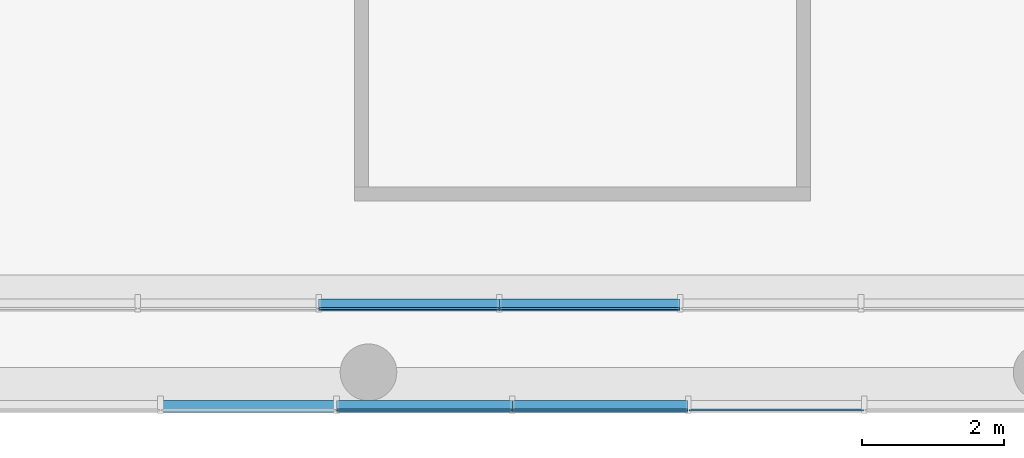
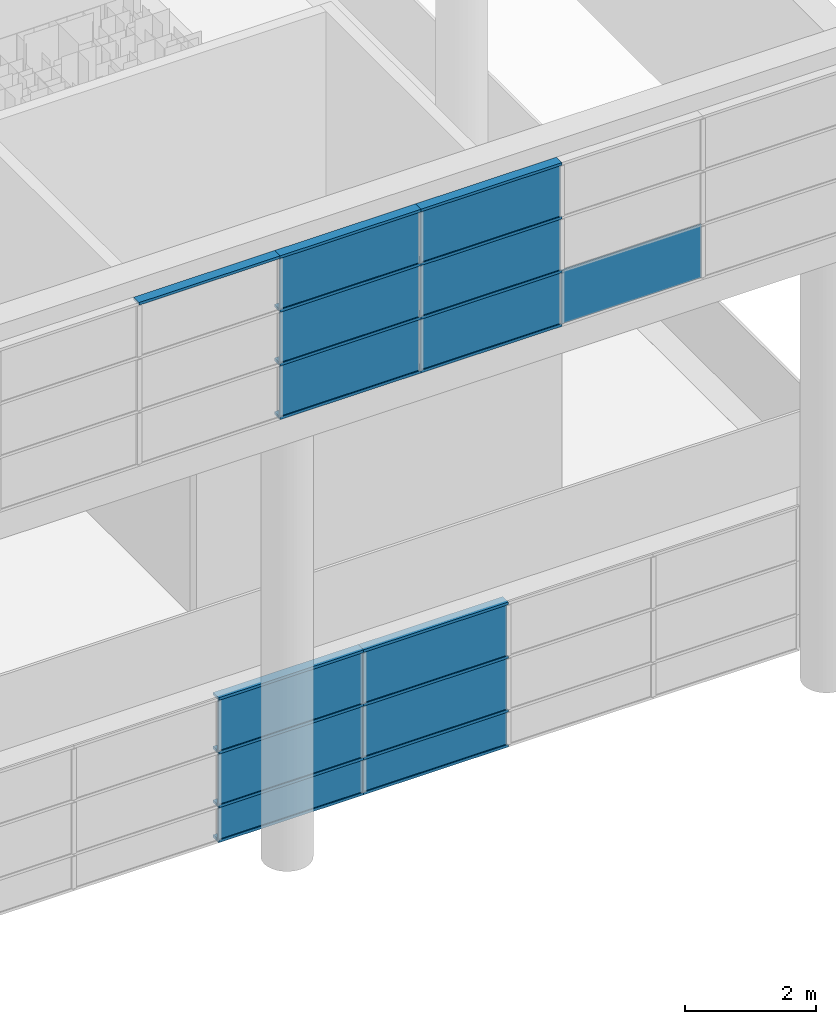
# One storey, part 53 of 105: 30 building element parts, 2 elements without a shape of their own.
"""IFC4 building model written with IfcOpenShell, lengths in millimetres."""

from ifc_helpers import new_model, entity, si_unit, converted_unit, derived_unit, direction, frame, origin_with_axes, place, context, subcontext, project, spatial, triangles, material, element, aggregate, save


model = new_model("IFC4")

# Units and contexts
model_context = context("Model", 3, precision=1e-05, world=origin_with_axes(), true_north=direction((0.0, 1.0)))
body_context = subcontext(model_context, "Body", "Model", "MODEL_VIEW")
ifc_project = project(units=[si_unit("LENGTHUNIT", "METRE", prefix="MILLI"), si_unit("AREAUNIT", "SQUARE_METRE"), si_unit("VOLUMEUNIT", "CUBIC_METRE"), converted_unit("PLANEANGLEUNIT", "DEGREE", entity("IfcLengthMeasure", 0.017453), si_unit("PLANEANGLEUNIT", "RADIAN"), dimensions=[0, 0, 0, 0, 0, 0, 0]), si_unit("SOLIDANGLEUNIT", "STERADIAN"), si_unit("MASSUNIT", "GRAM"), si_unit("TIMEUNIT", "SECOND"), si_unit("THERMODYNAMICTEMPERATUREUNIT", "DEGREE_CELSIUS"), si_unit("LUMINOUSINTENSITYUNIT", "LUMEN"), si_unit("POWERUNIT", "WATT"), derived_unit("THERMALTRANSMITTANCEUNIT", [(si_unit("POWERUNIT", "WATT"), 1), (si_unit("THERMODYNAMICTEMPERATUREUNIT", "KELVIN"), -1), (si_unit("AREAUNIT", "SQUARE_METRE"), -1)])], contexts=[model_context])

# Site, building, storey
site_placement = place(None, origin_with_axes())
site = spatial("IfcSite", under=ifc_project, at=site_placement, Name="Default Site", CompositionType="ELEMENT")
building_placement = place(site_placement, origin_with_axes())
building = spatial("IfcBuilding", under=site, at=building_placement, Name="Default Building", CompositionType="ELEMENT")
storey_placement = place(building_placement, origin_with_axes())
storey = spatial("IfcBuildingStorey", under=building, at=storey_placement, Name="OG - Story", CompositionType="ELEMENT", Elevation=0.0)

# Curtain wall, building element parts
curtain_wall_1_placement = place(storey_placement, origin_with_axes())
curtain_wall_1 = element("IfcCurtainWall", 1, at=curtain_wall_1_placement, inside=storey, Name="Fassade-001", PredefinedType="NOTDEFINED")
ifc_material_1 = material(Name="Normalglas")
building_element_part_1_placement = place(curtain_wall_1_placement, frame((52496.845873, -51289.262838, 0.0), z_axis=(0.0, 0.0, 1.0), x_axis=(1.0, 0.0, 0.0)))
building_element_part_1 = element("IfcBuildingElementPart", 2, at=building_element_part_1_placement, material=ifc_material_1, Name="Normalglas", PredefinedType="NOTDEFINED", context=body_context, shape_type="Tessellation", body=[
    triangles([(19121.818, 15.0, 645.0), (16590.909, 15.0, 645.0), (16590.909, -14.999, 645.0), (19121.818, -14.999, 645.0), (19121.818, 15.0, 5.0), (16590.909, 15.0, 5.0), (16590.909, -14.999, 5.0), (19121.818, -14.999, 5.0)], [[1, 2, 3], [1, 3, 4], [1, 5, 6], [1, 6, 2], [2, 6, 7], [2, 7, 3], [4, 3, 7], [4, 7, 8], [5, 1, 4], [5, 4, 8], [6, 5, 8], [6, 8, 7]], closed=False),
])
building_element_part_2_placement = place(curtain_wall_1_placement, frame((52496.845873, -51289.262838, 0.0), z_axis=(0.0, 0.0, 1.0), x_axis=(1.0, 0.0, 0.0)))
building_element_part_2 = element("IfcBuildingElementPart", 3, at=building_element_part_2_placement, material=ifc_material_1, Name="Normalglas", PredefinedType="NOTDEFINED", context=body_context, shape_type="Tessellation", body=[
    triangles([(21672.727, 15.0, 645.0), (19141.818, 15.0, 645.0), (19141.818, -14.999, 645.0), (21672.727, -14.999, 645.0), (21672.727, 15.0, 5.0), (19141.818, 15.0, 5.0), (19141.818, -14.999, 5.0), (21672.727, -14.999, 5.0)], [[1, 2, 3], [1, 3, 4], [1, 5, 6], [1, 6, 2], [2, 6, 7], [2, 7, 3], [4, 3, 7], [4, 7, 8], [5, 1, 4], [5, 4, 8], [6, 5, 8], [6, 8, 7]], closed=False),
])
building_element_part_3_placement = place(curtain_wall_1_placement, frame((52496.845873, -51289.262838, 0.0), z_axis=(0.0, 0.0, 1.0), x_axis=(1.0, 0.0, 0.0)))
building_element_part_3 = element("IfcBuildingElementPart", 4, at=building_element_part_3_placement, material=ifc_material_1, Name="Normalglas", PredefinedType="NOTDEFINED", context=body_context, shape_type="Tessellation", body=[
    triangles([(19121.818, 15.0, 1645.0), (16590.909, 15.0, 1645.0), (16590.909, -14.999, 1645.0), (19121.818, -14.999, 1645.0), (19121.818, 15.0, 655.0), (16590.909, 15.0, 655.0), (16590.909, -14.999, 655.0), (19121.818, -14.999, 655.0)], [[1, 2, 3], [1, 3, 4], [1, 5, 6], [1, 6, 2], [2, 6, 7], [2, 7, 3], [4, 3, 7], [4, 7, 8], [5, 1, 4], [5, 4, 8], [6, 5, 8], [6, 8, 7]], closed=False),
])
building_element_part_4_placement = place(curtain_wall_1_placement, frame((52496.845873, -51289.262838, 0.0), z_axis=(0.0, 0.0, 1.0), x_axis=(1.0, 0.0, 0.0)))
building_element_part_4 = element("IfcBuildingElementPart", 5, at=building_element_part_4_placement, material=ifc_material_1, Name="Normalglas", PredefinedType="NOTDEFINED", context=body_context, shape_type="Tessellation", body=[
    triangles([(21672.727, 15.0, 1645.0), (19141.818, 15.0, 1645.0), (19141.818, -14.999, 1645.0), (21672.727, -14.999, 1645.0), (21672.727, 15.0, 655.0), (19141.818, 15.0, 655.0), (19141.818, -14.999, 655.0), (21672.727, -14.999, 655.0)], [[1, 2, 3], [1, 3, 4], [1, 5, 6], [1, 6, 2], [2, 6, 7], [2, 7, 3], [4, 3, 7], [4, 7, 8], [5, 1, 4], [5, 4, 8], [6, 5, 8], [6, 8, 7]], closed=False),
])
building_element_part_5_placement = place(curtain_wall_1_placement, frame((52496.845873, -51289.262838, 0.0), z_axis=(0.0, 0.0, 1.0), x_axis=(1.0, 0.0, 0.0)))
building_element_part_5 = element("IfcBuildingElementPart", 6, at=building_element_part_5_placement, material=ifc_material_1, Name="Normalglas", PredefinedType="NOTDEFINED", context=body_context, shape_type="Tessellation", body=[
    triangles([(19121.818, 15.0, 2645.0), (16590.909, 15.0, 2645.0), (16590.909, -14.999, 2645.0), (19121.818, -14.999, 2645.0), (19121.818, 15.0, 1655.0), (16590.909, 15.0, 1655.0), (16590.909, -14.999, 1655.0), (19121.818, -14.999, 1655.0)], [[1, 2, 3], [1, 3, 4], [1, 5, 6], [1, 6, 2], [2, 6, 7], [2, 7, 3], [4, 3, 7], [4, 7, 8], [5, 1, 4], [5, 4, 8], [6, 5, 8], [6, 8, 7]], closed=False),
])
building_element_part_6_placement = place(curtain_wall_1_placement, frame((52496.845873, -51289.262838, 0.0), z_axis=(0.0, 0.0, 1.0), x_axis=(1.0, 0.0, 0.0)))
building_element_part_6 = element("IfcBuildingElementPart", 7, at=building_element_part_6_placement, material=ifc_material_1, Name="Normalglas", PredefinedType="NOTDEFINED", context=body_context, shape_type="Tessellation", body=[
    triangles([(21672.727, 15.0, 2645.0), (19141.818, 15.0, 2645.0), (19141.818, -14.999, 2645.0), (21672.727, -14.999, 2645.0), (21672.727, 15.0, 1655.0), (19141.818, 15.0, 1655.0), (19141.818, -14.999, 1655.0), (21672.727, -14.999, 1655.0)], [[1, 2, 3], [1, 3, 4], [1, 5, 6], [1, 6, 2], [2, 6, 7], [2, 7, 3], [4, 3, 7], [4, 7, 8], [5, 1, 4], [5, 4, 8], [6, 5, 8], [6, 8, 7]], closed=False),
])
ifc_material_2 = material(Name="Blech")
building_element_part_7_placement = place(curtain_wall_1_placement, frame((52496.845873, -51289.262838, 0.0), z_axis=(0.0, 0.0, 1.0), x_axis=(1.0, 0.0, 0.0)))
building_element_part_7 = element("IfcBuildingElementPart", 8, at=building_element_part_7_placement, material=ifc_material_2, Name="Blech", PredefinedType="NOTDEFINED", context=body_context, shape_type="Tessellation", body=[
    triangles([(19131.818, 15.0, 25.0), (19131.818, 133.0, 25.0), (19131.818, 15.0, 5.0), (19131.818, 133.0, -24.999), (19131.818, -14.999, 5.0), (19131.818, -34.999, -24.999), (19131.818, -14.999, 25.0), (19131.818, -34.999, 25.0), (16580.909, 15.0, 5.0), (16580.909, -14.999, 5.0), (16580.909, -14.999, 25.0), (16580.909, -34.999, 25.0), (16580.909, -34.999, -24.999), (16580.909, 133.0, -24.999), (16580.909, 133.0, 25.0), (16580.909, 15.0, 25.0)], [[1, 2, 3], [3, 2, 4], [3, 4, 5], [5, 4, 6], [5, 6, 7], [7, 6, 8], [5, 3, 9], [5, 9, 10], [11, 7, 5], [11, 5, 10], [7, 11, 12], [7, 12, 8], [13, 6, 8], [13, 8, 12], [14, 4, 6], [14, 6, 13], [15, 2, 4], [15, 4, 14], [16, 1, 2], [16, 2, 15], [3, 1, 16], [3, 16, 9], [16, 15, 9], [9, 15, 14], [9, 14, 10], [10, 14, 13], [10, 13, 11], [11, 13, 12]], closed=False),
])
building_element_part_8_placement = place(curtain_wall_1_placement, frame((52496.845873, -51289.262838, 0.0), z_axis=(0.0, 0.0, 1.0), x_axis=(1.0, 0.0, 0.0)))
building_element_part_8 = element("IfcBuildingElementPart", 9, at=building_element_part_8_placement, material=ifc_material_2, Name="Blech", PredefinedType="NOTDEFINED", context=body_context, shape_type="Tessellation", body=[
    triangles([(21682.727, 15.0, 25.0), (21682.727, 133.0, 25.0), (21682.727, 15.0, 5.0), (21682.727, 133.0, -24.999), (21682.727, -14.999, 5.0), (21682.727, -34.999, -24.999), (21682.727, -14.999, 25.0), (21682.727, -34.999, 25.0), (19131.818, 15.0, 5.0), (19131.818, -14.999, 5.0), (19131.818, -14.999, 25.0), (19131.818, -34.999, 25.0), (19131.818, -34.999, -24.999), (19131.818, 133.0, -24.999), (19131.818, 133.0, 25.0), (19131.818, 15.0, 25.0)], [[1, 2, 3], [3, 2, 4], [3, 4, 5], [5, 4, 6], [5, 6, 7], [7, 6, 8], [5, 3, 9], [5, 9, 10], [11, 7, 5], [11, 5, 10], [7, 11, 12], [7, 12, 8], [13, 6, 8], [13, 8, 12], [14, 4, 6], [14, 6, 13], [15, 2, 4], [15, 4, 14], [16, 1, 2], [16, 2, 15], [3, 1, 16], [3, 16, 9], [16, 15, 9], [9, 15, 14], [9, 14, 10], [10, 14, 13], [10, 13, 11], [11, 13, 12]], closed=False),
])
building_element_part_9_placement = place(curtain_wall_1_placement, frame((52496.845873, -51289.262838, 0.0), z_axis=(0.0, 0.0, 1.0), x_axis=(1.0, 0.0, 0.0)))
building_element_part_9 = element("IfcBuildingElementPart", 10, at=building_element_part_9_placement, material=ifc_material_2, Name="Blech", PredefinedType="NOTDEFINED", context=body_context, shape_type="Tessellation", body=[
    triangles([(19131.818, 133.0, 675.0), (19131.818, 15.0, 675.0), (19131.818, 133.0, 625.0), (19131.818, 15.0, 655.0), (19131.818, 15.0, 645.0), (19131.818, -14.999, 655.0), (19131.818, -14.999, 645.0), (19131.818, -14.999, 625.0), (19131.818, -14.999, 675.0), (19131.818, -34.999, 675.0), (19131.818, -34.999, 625.0), (19131.818, 15.0, 625.0), (16580.909, 15.0, 645.0), (16580.909, 15.0, 625.0), (16580.909, 133.0, 625.0), (16580.909, 133.0, 675.0), (16580.909, 15.0, 675.0), (16580.909, 15.0, 655.0), (16580.909, -14.999, 655.0), (16580.909, -14.999, 675.0), (16580.909, -34.999, 675.0), (16580.909, -34.999, 625.0), (16580.909, -14.999, 625.0), (16580.909, -14.999, 645.0)], [[1, 2, 3], [3, 2, 4], [3, 4, 5], [5, 4, 6], [5, 6, 7], [8, 9, 10], [8, 10, 11], [3, 5, 12], [12, 5, 13], [12, 13, 14], [12, 14, 15], [12, 15, 3], [1, 3, 15], [1, 15, 16], [2, 1, 16], [2, 16, 17], [2, 17, 18], [2, 18, 4], [4, 18, 19], [4, 19, 6], [9, 6, 19], [9, 19, 20], [20, 21, 10], [20, 10, 9], [11, 10, 21], [11, 21, 22], [23, 8, 11], [23, 11, 22], [7, 8, 23], [7, 23, 24], [5, 7, 24], [5, 24, 13], [15, 14, 16], [16, 14, 13], [16, 13, 18], [18, 13, 24], [18, 24, 19], [20, 23, 22], [20, 22, 21], [16, 18, 17]], closed=False),
])
building_element_part_10_placement = place(curtain_wall_1_placement, frame((52496.845873, -51289.262838, 0.0), z_axis=(0.0, 0.0, 1.0), x_axis=(1.0, 0.0, 0.0)))
building_element_part_10 = element("IfcBuildingElementPart", 11, at=building_element_part_10_placement, material=ifc_material_2, Name="Blech", PredefinedType="NOTDEFINED", context=body_context, shape_type="Tessellation", body=[
    triangles([(21682.727, 133.0, 675.0), (21682.727, 15.0, 675.0), (21682.727, 133.0, 625.0), (21682.727, 15.0, 655.0), (21682.727, 15.0, 645.0), (21682.727, -14.999, 655.0), (21682.727, -14.999, 645.0), (21682.727, -14.999, 625.0), (21682.727, -14.999, 675.0), (21682.727, -34.999, 675.0), (21682.727, -34.999, 625.0), (21682.727, 15.0, 625.0), (19131.818, 15.0, 645.0), (19131.818, 15.0, 625.0), (19131.818, 133.0, 625.0), (19131.818, 133.0, 675.0), (19131.818, 15.0, 675.0), (19131.818, 15.0, 655.0), (19131.818, -14.999, 655.0), (19131.818, -14.999, 675.0), (19131.818, -34.999, 675.0), (19131.818, -34.999, 625.0), (19131.818, -14.999, 625.0), (19131.818, -14.999, 645.0)], [[1, 2, 3], [3, 2, 4], [3, 4, 5], [5, 4, 6], [5, 6, 7], [8, 9, 10], [8, 10, 11], [3, 5, 12], [12, 5, 13], [12, 13, 14], [12, 14, 15], [12, 15, 3], [1, 3, 15], [1, 15, 16], [2, 1, 16], [2, 16, 17], [2, 17, 18], [2, 18, 4], [4, 18, 19], [4, 19, 6], [9, 6, 19], [9, 19, 20], [20, 21, 10], [20, 10, 9], [11, 10, 21], [11, 21, 22], [23, 8, 11], [23, 11, 22], [7, 8, 23], [7, 23, 24], [5, 7, 24], [5, 24, 13], [15, 14, 16], [16, 14, 13], [16, 13, 18], [18, 13, 24], [18, 24, 19], [20, 23, 22], [20, 22, 21], [16, 18, 17]], closed=False),
])
building_element_part_11_placement = place(curtain_wall_1_placement, frame((52496.845873, -51289.262838, 0.0), z_axis=(0.0, 0.0, 1.0), x_axis=(1.0, 0.0, 0.0)))
building_element_part_11 = element("IfcBuildingElementPart", 12, at=building_element_part_11_placement, material=ifc_material_2, Name="Blech", PredefinedType="NOTDEFINED", context=body_context, shape_type="Tessellation", body=[
    triangles([(19131.818, 133.0, 1675.0), (19131.818, 15.0, 1675.0), (19131.818, 133.0, 1625.0), (19131.818, 15.0, 1655.0), (19131.818, 15.0, 1645.0), (19131.818, -14.999, 1655.0), (19131.818, -14.999, 1645.0), (19131.818, -14.999, 1625.0), (19131.818, -14.999, 1675.0), (19131.818, -34.999, 1675.0), (19131.818, -34.999, 1625.0), (19131.818, 15.0, 1625.0), (16580.909, 15.0, 1645.0), (16580.909, 15.0, 1625.0), (16580.909, 133.0, 1625.0), (16580.909, 133.0, 1675.0), (16580.909, 15.0, 1675.0), (16580.909, 15.0, 1655.0), (16580.909, -14.999, 1655.0), (16580.909, -14.999, 1675.0), (16580.909, -34.999, 1675.0), (16580.909, -34.999, 1625.0), (16580.909, -14.999, 1625.0), (16580.909, -14.999, 1645.0)], [[1, 2, 3], [3, 2, 4], [3, 4, 5], [5, 4, 6], [5, 6, 7], [8, 9, 10], [8, 10, 11], [3, 5, 12], [12, 5, 13], [12, 13, 14], [12, 14, 15], [12, 15, 3], [1, 3, 15], [1, 15, 16], [2, 1, 16], [2, 16, 17], [2, 17, 18], [2, 18, 4], [4, 18, 19], [4, 19, 6], [9, 6, 19], [9, 19, 20], [20, 21, 10], [20, 10, 9], [11, 10, 21], [11, 21, 22], [23, 8, 11], [23, 11, 22], [7, 8, 23], [7, 23, 24], [5, 7, 24], [5, 24, 13], [15, 14, 16], [16, 14, 13], [16, 13, 18], [18, 13, 24], [18, 24, 19], [20, 23, 22], [20, 22, 21], [16, 18, 17]], closed=False),
])
building_element_part_12_placement = place(curtain_wall_1_placement, frame((52496.845873, -51289.262838, 0.0), z_axis=(0.0, 0.0, 1.0), x_axis=(1.0, 0.0, 0.0)))
building_element_part_12 = element("IfcBuildingElementPart", 13, at=building_element_part_12_placement, material=ifc_material_2, Name="Blech", PredefinedType="NOTDEFINED", context=body_context, shape_type="Tessellation", body=[
    triangles([(19131.818, 15.0, 2625.0), (19131.818, 133.0, 2625.0), (19131.818, 15.0, 2645.0), (19131.818, 133.0, 2675.0), (19131.818, -14.999, 2645.0), (19131.818, -34.999, 2675.0), (19131.818, -14.999, 2625.0), (19131.818, -34.999, 2625.0), (16580.909, 15.0, 2645.0), (16580.909, 15.0, 2625.0), (16580.909, 133.0, 2625.0), (16580.909, 133.0, 2675.0), (16580.909, -34.999, 2675.0), (16580.909, -34.999, 2625.0), (16580.909, -14.999, 2625.0), (16580.909, -14.999, 2645.0)], [[1, 2, 3], [3, 2, 4], [3, 4, 5], [5, 4, 6], [5, 6, 7], [7, 6, 8], [3, 9, 10], [3, 10, 1], [10, 11, 2], [10, 2, 1], [11, 12, 4], [11, 4, 2], [12, 13, 6], [12, 6, 4], [13, 14, 8], [13, 8, 6], [7, 8, 14], [7, 14, 15], [15, 16, 5], [15, 5, 7], [5, 16, 9], [5, 9, 3], [10, 11, 9], [9, 11, 12], [9, 12, 16], [16, 12, 13], [16, 13, 15], [15, 13, 14]], closed=False),
])
building_element_part_13_placement = place(curtain_wall_1_placement, frame((52496.845873, -51289.262838, 0.0), z_axis=(0.0, 0.0, 1.0), x_axis=(1.0, 0.0, 0.0)))
building_element_part_13 = element("IfcBuildingElementPart", 14, at=building_element_part_13_placement, material=ifc_material_2, Name="Blech", PredefinedType="NOTDEFINED", context=body_context, shape_type="Tessellation", body=[
    triangles([(21682.727, 133.0, 1675.0), (21682.727, 15.0, 1675.0), (21682.727, 133.0, 1625.0), (21682.727, 15.0, 1655.0), (21682.727, 15.0, 1645.0), (21682.727, -14.999, 1655.0), (21682.727, -14.999, 1645.0), (21682.727, -14.999, 1625.0), (21682.727, -14.999, 1675.0), (21682.727, -34.999, 1675.0), (21682.727, -34.999, 1625.0), (21682.727, 15.0, 1625.0), (19131.818, 15.0, 1645.0), (19131.818, 15.0, 1625.0), (19131.818, 133.0, 1625.0), (19131.818, 133.0, 1675.0), (19131.818, 15.0, 1675.0), (19131.818, 15.0, 1655.0), (19131.818, -14.999, 1655.0), (19131.818, -14.999, 1675.0), (19131.818, -34.999, 1675.0), (19131.818, -34.999, 1625.0), (19131.818, -14.999, 1625.0), (19131.818, -14.999, 1645.0)], [[1, 2, 3], [3, 2, 4], [3, 4, 5], [5, 4, 6], [5, 6, 7], [8, 9, 10], [8, 10, 11], [3, 5, 12], [12, 5, 13], [12, 13, 14], [12, 14, 15], [12, 15, 3], [1, 3, 15], [1, 15, 16], [2, 1, 16], [2, 16, 17], [2, 17, 18], [2, 18, 4], [4, 18, 19], [4, 19, 6], [9, 6, 19], [9, 19, 20], [20, 21, 10], [20, 10, 9], [11, 10, 21], [11, 21, 22], [23, 8, 11], [23, 11, 22], [7, 8, 23], [7, 23, 24], [5, 7, 24], [5, 24, 13], [15, 14, 16], [16, 14, 13], [16, 13, 18], [18, 13, 24], [18, 24, 19], [20, 23, 22], [20, 22, 21], [16, 18, 17]], closed=False),
])
building_element_part_14_placement = place(curtain_wall_1_placement, frame((52496.845873, -51289.262838, 0.0), z_axis=(0.0, 0.0, 1.0), x_axis=(1.0, 0.0, 0.0)))
building_element_part_14 = element("IfcBuildingElementPart", 15, at=building_element_part_14_placement, material=ifc_material_2, Name="Blech", PredefinedType="NOTDEFINED", context=body_context, shape_type="Tessellation", body=[
    triangles([(21682.727, 15.0, 2625.0), (21682.727, 133.0, 2625.0), (21682.727, 15.0, 2645.0), (21682.727, 133.0, 2675.0), (21682.727, -14.999, 2645.0), (21682.727, -34.999, 2675.0), (21682.727, -14.999, 2625.0), (21682.727, -34.999, 2625.0), (19131.818, 15.0, 2645.0), (19131.818, 15.0, 2625.0), (19131.818, 133.0, 2625.0), (19131.818, 133.0, 2675.0), (19131.818, -34.999, 2675.0), (19131.818, -34.999, 2625.0), (19131.818, -14.999, 2625.0), (19131.818, -14.999, 2645.0)], [[1, 2, 3], [3, 2, 4], [3, 4, 5], [5, 4, 6], [5, 6, 7], [7, 6, 8], [3, 9, 10], [3, 10, 1], [10, 11, 2], [10, 2, 1], [11, 12, 4], [11, 4, 2], [12, 13, 6], [12, 6, 4], [13, 14, 8], [13, 8, 6], [7, 8, 14], [7, 14, 15], [15, 16, 5], [15, 5, 7], [5, 16, 9], [5, 9, 3], [10, 11, 9], [9, 11, 12], [9, 12, 16], [16, 12, 13], [16, 13, 15], [15, 13, 14]], closed=False),
])
aggregate(curtain_wall_1, [building_element_part_1, building_element_part_2, building_element_part_3, building_element_part_4, building_element_part_5, building_element_part_6, building_element_part_7, building_element_part_8, building_element_part_9, building_element_part_10, building_element_part_11, building_element_part_12, building_element_part_13, building_element_part_14])

curtain_wall_2_placement = place(storey_placement, origin_with_axes())
curtain_wall_2 = element("IfcCurtainWall", 16, at=curtain_wall_2_placement, inside=storey, Name="Fassade-002", PredefinedType="NOTDEFINED")
building_element_part_15_placement = place(curtain_wall_2_placement, frame((33339.077852, -52722.262838, 8660.317768), z_axis=(0.0, 0.0, 1.0), x_axis=(1.0, 0.0, 0.0)))
building_element_part_15 = element("IfcBuildingElementPart", 17, at=building_element_part_15_placement, material=ifc_material_1, Name="Normalglas", PredefinedType="NOTDEFINED", context=body_context, shape_type="Tessellation", body=[
    triangles([(38462.44, 15.0, 995.0), (36000.347, 15.0, 995.0), (36000.347, -14.999, 995.0), (38462.44, -14.999, 995.0), (38462.44, 15.0, 5.0), (36000.347, 15.0, 5.0), (36000.347, -14.999, 5.0), (38462.44, -14.999, 5.0)], [[1, 2, 3], [1, 3, 4], [1, 5, 6], [1, 6, 2], [2, 6, 7], [2, 7, 3], [4, 3, 7], [4, 7, 8], [5, 1, 4], [5, 4, 8], [6, 5, 8], [6, 8, 7]], closed=False),
])
building_element_part_16_placement = place(curtain_wall_2_placement, frame((33339.077852, -52722.262838, 8660.317768), z_axis=(0.0, 0.0, 1.0), x_axis=(1.0, 0.0, 0.0)))
building_element_part_16 = element("IfcBuildingElementPart", 18, at=building_element_part_16_placement, material=ifc_material_1, Name="Normalglas", PredefinedType="NOTDEFINED", context=body_context, shape_type="Tessellation", body=[
    triangles([(38462.44, 15.0, 1995.0), (36000.347, 15.0, 1995.0), (36000.347, -14.999, 1995.0), (38462.44, -14.999, 1995.0), (38462.44, 15.0, 1005.0), (36000.347, 15.0, 1005.0), (36000.347, -14.999, 1005.0), (38462.44, -14.999, 1005.0)], [[1, 2, 3], [1, 3, 4], [1, 5, 6], [1, 6, 2], [2, 6, 7], [2, 7, 3], [4, 3, 7], [4, 7, 8], [5, 1, 4], [5, 4, 8], [6, 5, 8], [6, 8, 7]], closed=False),
])
building_element_part_17_placement = place(curtain_wall_2_placement, frame((33339.077852, -52722.262838, 8660.317768), z_axis=(0.0, 0.0, 1.0), x_axis=(1.0, 0.0, 0.0)))
building_element_part_17 = element("IfcBuildingElementPart", 19, at=building_element_part_17_placement, material=ifc_material_1, Name="Normalglas", PredefinedType="NOTDEFINED", context=body_context, shape_type="Tessellation", body=[
    triangles([(38462.44, 15.0, 2995.0), (36000.347, 15.0, 2995.0), (36000.347, -14.999, 2995.0), (38462.44, -14.999, 2995.0), (38462.44, 15.0, 2005.0), (36000.347, 15.0, 2005.0), (36000.347, -14.999, 2005.0), (38462.44, -14.999, 2005.0)], [[1, 2, 3], [1, 3, 4], [1, 5, 6], [1, 6, 2], [2, 6, 7], [2, 7, 3], [4, 3, 7], [4, 7, 8], [5, 1, 4], [5, 4, 8], [6, 5, 8], [6, 8, 7]], closed=False),
])
building_element_part_18_placement = place(curtain_wall_2_placement, frame((33339.077852, -52722.262838, 8660.317768), z_axis=(0.0, 0.0, 1.0), x_axis=(1.0, 0.0, 0.0)))
building_element_part_18 = element("IfcBuildingElementPart", 20, at=building_element_part_18_placement, material=ifc_material_1, Name="Normalglas", PredefinedType="NOTDEFINED", context=body_context, shape_type="Tessellation", body=[
    triangles([(40944.532, 15.0, 995.0), (38482.44, 15.0, 995.0), (38482.44, -14.999, 995.0), (40944.532, -14.999, 995.0), (40944.532, 15.0, 5.0), (38482.44, 15.0, 5.0), (38482.44, -14.999, 5.0), (40944.532, -14.999, 5.0)], [[1, 2, 3], [1, 3, 4], [1, 5, 6], [1, 6, 2], [2, 6, 7], [2, 7, 3], [4, 3, 7], [4, 7, 8], [5, 1, 4], [5, 4, 8], [6, 5, 8], [6, 8, 7]], closed=False),
])
building_element_part_19_placement = place(curtain_wall_2_placement, frame((33339.077852, -52722.262838, 8660.317768), z_axis=(0.0, 0.0, 1.0), x_axis=(1.0, 0.0, 0.0)))
building_element_part_19 = element("IfcBuildingElementPart", 21, at=building_element_part_19_placement, material=ifc_material_1, Name="Normalglas", PredefinedType="NOTDEFINED", context=body_context, shape_type="Tessellation", body=[
    triangles([(40944.532, 15.0, 1995.0), (38482.44, 15.0, 1995.0), (38482.44, -14.999, 1995.0), (40944.532, -14.999, 1995.0), (40944.532, 15.0, 1005.0), (38482.44, 15.0, 1005.0), (38482.44, -14.999, 1005.0), (40944.532, -14.999, 1005.0)], [[1, 2, 3], [1, 3, 4], [1, 5, 6], [1, 6, 2], [2, 6, 7], [2, 7, 3], [4, 3, 7], [4, 7, 8], [5, 1, 4], [5, 4, 8], [6, 5, 8], [6, 8, 7]], closed=False),
])
building_element_part_20_placement = place(curtain_wall_2_placement, frame((33339.077852, -52722.262838, 8660.317768), z_axis=(0.0, 0.0, 1.0), x_axis=(1.0, 0.0, 0.0)))
building_element_part_20 = element("IfcBuildingElementPart", 22, at=building_element_part_20_placement, material=ifc_material_1, Name="Normalglas", PredefinedType="NOTDEFINED", context=body_context, shape_type="Tessellation", body=[
    triangles([(40944.532, 15.0, 2995.0), (38482.44, 15.0, 2995.0), (38482.44, -14.999, 2995.0), (40944.532, -14.999, 2995.0), (40944.532, 15.0, 2005.0), (38482.44, 15.0, 2005.0), (38482.44, -14.999, 2005.0), (40944.532, -14.999, 2005.0)], [[1, 2, 3], [1, 3, 4], [1, 5, 6], [1, 6, 2], [2, 6, 7], [2, 7, 3], [4, 3, 7], [4, 7, 8], [5, 1, 4], [5, 4, 8], [6, 5, 8], [6, 8, 7]], closed=False),
])
building_element_part_21_placement = place(curtain_wall_2_placement, frame((33339.077852, -52722.262838, 8660.317768), z_axis=(0.0, 0.0, 1.0), x_axis=(1.0, 0.0, 0.0)))
building_element_part_21 = element("IfcBuildingElementPart", 23, at=building_element_part_21_placement, material=ifc_material_1, Name="Normalglas", PredefinedType="NOTDEFINED", context=body_context, shape_type="Tessellation", body=[
    triangles([(43426.625, 15.0, 995.0), (40964.532, 15.0, 995.0), (40964.532, -14.999, 995.0), (43426.625, -14.999, 995.0), (43426.625, 15.0, 5.0), (40964.532, 15.0, 5.0), (40964.532, -14.999, 5.0), (43426.625, -14.999, 5.0)], [[1, 2, 3], [1, 3, 4], [1, 5, 6], [1, 6, 2], [2, 6, 7], [2, 7, 3], [4, 3, 7], [4, 7, 8], [5, 1, 4], [5, 4, 8], [6, 5, 8], [6, 8, 7]], closed=False),
])
building_element_part_22_placement = place(curtain_wall_2_placement, frame((33339.077852, -52722.262838, 8660.317768), z_axis=(0.0, 0.0, 1.0), x_axis=(1.0, 0.0, 0.0)))
building_element_part_22 = element("IfcBuildingElementPart", 24, at=building_element_part_22_placement, material=ifc_material_2, Name="Blech", PredefinedType="NOTDEFINED", context=body_context, shape_type="Tessellation", body=[
    triangles([(38472.44, 15.0, 25.0), (38472.44, 133.0, 25.0), (38472.44, 15.0, 5.0), (38472.44, 133.0, -24.999), (38472.44, -14.999, 5.0), (38472.44, -34.999, -24.999), (38472.44, -14.999, 25.0), (38472.44, -34.999, 25.0), (35990.347, 15.0, 5.0), (35990.347, -14.999, 5.0), (35990.347, -14.999, 25.0), (35990.347, -34.999, 25.0), (35990.347, -34.999, -24.999), (35990.347, 133.0, -24.999), (35990.347, 133.0, 25.0), (35990.347, 15.0, 25.0)], [[1, 2, 3], [3, 2, 4], [3, 4, 5], [5, 4, 6], [5, 6, 7], [7, 6, 8], [5, 3, 9], [5, 9, 10], [11, 7, 5], [11, 5, 10], [7, 11, 12], [7, 12, 8], [13, 6, 8], [13, 8, 12], [14, 4, 6], [14, 6, 13], [15, 2, 4], [15, 4, 14], [16, 1, 2], [16, 2, 15], [3, 1, 16], [3, 16, 9], [16, 15, 9], [9, 15, 14], [9, 14, 10], [10, 14, 13], [10, 13, 11], [11, 13, 12]], closed=False),
])
building_element_part_23_placement = place(curtain_wall_2_placement, frame((33339.077852, -52722.262838, 8660.317768), z_axis=(0.0, 0.0, 1.0), x_axis=(1.0, 0.0, 0.0)))
building_element_part_23 = element("IfcBuildingElementPart", 25, at=building_element_part_23_placement, material=ifc_material_2, Name="Blech", PredefinedType="NOTDEFINED", context=body_context, shape_type="Tessellation", body=[
    triangles([(40954.532, 15.0, 25.0), (40954.532, 133.0, 25.0), (40954.532, 15.0, 5.0), (40954.532, 133.0, -24.999), (40954.532, -14.999, 5.0), (40954.532, -34.999, -24.999), (40954.532, -14.999, 25.0), (40954.532, -34.999, 25.0), (38472.44, 15.0, 5.0), (38472.44, -14.999, 5.0), (38472.44, -14.999, 25.0), (38472.44, -34.999, 25.0), (38472.44, -34.999, -24.999), (38472.44, 133.0, -24.999), (38472.44, 133.0, 25.0), (38472.44, 15.0, 25.0)], [[1, 2, 3], [3, 2, 4], [3, 4, 5], [5, 4, 6], [5, 6, 7], [7, 6, 8], [5, 3, 9], [5, 9, 10], [11, 7, 5], [11, 5, 10], [7, 11, 12], [7, 12, 8], [13, 6, 8], [13, 8, 12], [14, 4, 6], [14, 6, 13], [15, 2, 4], [15, 4, 14], [16, 1, 2], [16, 2, 15], [3, 1, 16], [3, 16, 9], [16, 15, 9], [9, 15, 14], [9, 14, 10], [10, 14, 13], [10, 13, 11], [11, 13, 12]], closed=False),
])
building_element_part_24_placement = place(curtain_wall_2_placement, frame((33339.077852, -52722.262838, 8660.317768), z_axis=(0.0, 0.0, 1.0), x_axis=(1.0, 0.0, 0.0)))
building_element_part_24 = element("IfcBuildingElementPart", 26, at=building_element_part_24_placement, material=ifc_material_2, Name="Blech", PredefinedType="NOTDEFINED", context=body_context, shape_type="Tessellation", body=[
    triangles([(38472.44, 133.0, 1025.0), (38472.44, 15.0, 1025.0), (38472.44, 133.0, 975.0), (38472.44, 15.0, 1005.0), (38472.44, 15.0, 995.0), (38472.44, -14.999, 1005.0), (38472.44, -14.999, 995.0), (38472.44, -14.999, 975.0), (38472.44, -14.999, 1025.0), (38472.44, -34.999, 1025.0), (38472.44, -34.999, 975.0), (38472.44, 15.0, 975.0), (35990.347, 15.0, 995.0), (35990.347, 15.0, 975.0), (35990.347, 133.0, 975.0), (35990.347, 133.0, 1025.0), (35990.347, 15.0, 1025.0), (35990.347, 15.0, 1005.0), (35990.347, -14.999, 1005.0), (35990.347, -14.999, 1025.0), (35990.347, -34.999, 1025.0), (35990.347, -34.999, 975.0), (35990.347, -14.999, 975.0), (35990.347, -14.999, 995.0)], [[1, 2, 3], [3, 2, 4], [3, 4, 5], [5, 4, 6], [5, 6, 7], [8, 9, 10], [8, 10, 11], [3, 5, 12], [12, 5, 13], [12, 13, 14], [12, 14, 15], [12, 15, 3], [1, 3, 15], [1, 15, 16], [2, 1, 16], [2, 16, 17], [2, 17, 18], [2, 18, 4], [4, 18, 19], [4, 19, 6], [9, 6, 19], [9, 19, 20], [20, 21, 10], [20, 10, 9], [11, 10, 21], [11, 21, 22], [23, 8, 11], [23, 11, 22], [7, 8, 23], [7, 23, 24], [5, 7, 24], [5, 24, 13], [15, 14, 16], [16, 14, 13], [16, 13, 18], [18, 13, 24], [18, 24, 19], [20, 23, 22], [20, 22, 21], [16, 18, 17]], closed=False),
])
building_element_part_25_placement = place(curtain_wall_2_placement, frame((33339.077852, -52722.262838, 8660.317768), z_axis=(0.0, 0.0, 1.0), x_axis=(1.0, 0.0, 0.0)))
building_element_part_25 = element("IfcBuildingElementPart", 27, at=building_element_part_25_placement, material=ifc_material_2, Name="Blech", PredefinedType="NOTDEFINED", context=body_context, shape_type="Tessellation", body=[
    triangles([(40954.532, 133.0, 1025.0), (40954.532, 15.0, 1025.0), (40954.532, 133.0, 975.0), (40954.532, 15.0, 1005.0), (40954.532, 15.0, 995.0), (40954.532, -14.999, 1005.0), (40954.532, -14.999, 995.0), (40954.532, -14.999, 975.0), (40954.532, -14.999, 1025.0), (40954.532, -34.999, 1025.0), (40954.532, -34.999, 975.0), (40954.532, 15.0, 975.0), (38472.44, 15.0, 995.0), (38472.44, 15.0, 975.0), (38472.44, 133.0, 975.0), (38472.44, 133.0, 1025.0), (38472.44, 15.0, 1025.0), (38472.44, 15.0, 1005.0), (38472.44, -14.999, 1005.0), (38472.44, -14.999, 1025.0), (38472.44, -34.999, 1025.0), (38472.44, -34.999, 975.0), (38472.44, -14.999, 975.0), (38472.44, -14.999, 995.0)], [[1, 2, 3], [3, 2, 4], [3, 4, 5], [5, 4, 6], [5, 6, 7], [8, 9, 10], [8, 10, 11], [3, 5, 12], [12, 5, 13], [12, 13, 14], [12, 14, 15], [12, 15, 3], [1, 3, 15], [1, 15, 16], [2, 1, 16], [2, 16, 17], [2, 17, 18], [2, 18, 4], [4, 18, 19], [4, 19, 6], [9, 6, 19], [9, 19, 20], [20, 21, 10], [20, 10, 9], [11, 10, 21], [11, 21, 22], [23, 8, 11], [23, 11, 22], [7, 8, 23], [7, 23, 24], [5, 7, 24], [5, 24, 13], [15, 14, 16], [16, 14, 13], [16, 13, 18], [18, 13, 24], [18, 24, 19], [20, 23, 22], [20, 22, 21], [16, 18, 17]], closed=False),
])
building_element_part_26_placement = place(curtain_wall_2_placement, frame((33339.077852, -52722.262838, 8660.317768), z_axis=(0.0, 0.0, 1.0), x_axis=(1.0, 0.0, 0.0)))
building_element_part_26 = element("IfcBuildingElementPart", 28, at=building_element_part_26_placement, material=ifc_material_2, Name="Blech", PredefinedType="NOTDEFINED", context=body_context, shape_type="Tessellation", body=[
    triangles([(38472.44, 133.0, 2025.0), (38472.44, 15.0, 2025.0), (38472.44, 133.0, 1975.0), (38472.44, 15.0, 2005.0), (38472.44, 15.0, 1995.0), (38472.44, -14.999, 2005.0), (38472.44, -14.999, 1995.0), (38472.44, -14.999, 1975.0), (38472.44, -14.999, 2025.0), (38472.44, -34.999, 2025.0), (38472.44, -34.999, 1975.0), (38472.44, 15.0, 1975.0), (35990.347, 15.0, 1995.0), (35990.347, 15.0, 1975.0), (35990.347, 133.0, 1975.0), (35990.347, 133.0, 2025.0), (35990.347, 15.0, 2025.0), (35990.347, 15.0, 2005.0), (35990.347, -14.999, 2005.0), (35990.347, -14.999, 2025.0), (35990.347, -34.999, 2025.0), (35990.347, -34.999, 1975.0), (35990.347, -14.999, 1975.0), (35990.347, -14.999, 1995.0)], [[1, 2, 3], [3, 2, 4], [3, 4, 5], [5, 4, 6], [5, 6, 7], [8, 9, 10], [8, 10, 11], [3, 5, 12], [12, 5, 13], [12, 13, 14], [12, 14, 15], [12, 15, 3], [1, 3, 15], [1, 15, 16], [2, 1, 16], [2, 16, 17], [2, 17, 18], [2, 18, 4], [4, 18, 19], [4, 19, 6], [9, 6, 19], [9, 19, 20], [20, 21, 10], [20, 10, 9], [11, 10, 21], [11, 21, 22], [23, 8, 11], [23, 11, 22], [7, 8, 23], [7, 23, 24], [5, 7, 24], [5, 24, 13], [15, 14, 16], [16, 14, 13], [16, 13, 18], [18, 13, 24], [18, 24, 19], [20, 23, 22], [20, 22, 21], [16, 18, 17]], closed=False),
])
building_element_part_27_placement = place(curtain_wall_2_placement, frame((33339.077852, -52722.262838, 8660.317768), z_axis=(0.0, 0.0, 1.0), x_axis=(1.0, 0.0, 0.0)))
building_element_part_27 = element("IfcBuildingElementPart", 29, at=building_element_part_27_placement, material=ifc_material_2, Name="Blech", PredefinedType="NOTDEFINED", context=body_context, shape_type="Tessellation", body=[
    triangles([(40954.532, 133.0, 2025.0), (40954.532, 15.0, 2025.0), (40954.532, 133.0, 1975.0), (40954.532, 15.0, 2005.0), (40954.532, 15.0, 1995.0), (40954.532, -14.999, 2005.0), (40954.532, -14.999, 1995.0), (40954.532, -14.999, 1975.0), (40954.532, -14.999, 2025.0), (40954.532, -34.999, 2025.0), (40954.532, -34.999, 1975.0), (40954.532, 15.0, 1975.0), (38472.44, 15.0, 1995.0), (38472.44, 15.0, 1975.0), (38472.44, 133.0, 1975.0), (38472.44, 133.0, 2025.0), (38472.44, 15.0, 2025.0), (38472.44, 15.0, 2005.0), (38472.44, -14.999, 2005.0), (38472.44, -14.999, 2025.0), (38472.44, -34.999, 2025.0), (38472.44, -34.999, 1975.0), (38472.44, -14.999, 1975.0), (38472.44, -14.999, 1995.0)], [[1, 2, 3], [3, 2, 4], [3, 4, 5], [5, 4, 6], [5, 6, 7], [8, 9, 10], [8, 10, 11], [3, 5, 12], [12, 5, 13], [12, 13, 14], [12, 14, 15], [12, 15, 3], [1, 3, 15], [1, 15, 16], [2, 1, 16], [2, 16, 17], [2, 17, 18], [2, 18, 4], [4, 18, 19], [4, 19, 6], [9, 6, 19], [9, 19, 20], [20, 21, 10], [20, 10, 9], [11, 10, 21], [11, 21, 22], [23, 8, 11], [23, 11, 22], [7, 8, 23], [7, 23, 24], [5, 7, 24], [5, 24, 13], [15, 14, 16], [16, 14, 13], [16, 13, 18], [18, 13, 24], [18, 24, 19], [20, 23, 22], [20, 22, 21], [16, 18, 17]], closed=False),
])
building_element_part_28_placement = place(curtain_wall_2_placement, frame((33339.077852, -52722.262838, 8660.317768), z_axis=(0.0, 0.0, 1.0), x_axis=(1.0, 0.0, 0.0)))
building_element_part_28 = element("IfcBuildingElementPart", 30, at=building_element_part_28_placement, material=ifc_material_2, Name="Blech", PredefinedType="NOTDEFINED", context=body_context, shape_type="Tessellation", body=[
    triangles([(35990.347, 15.0, 2975.0), (35990.347, 133.0, 2975.0), (35990.347, 15.0, 2995.0), (35990.347, 133.0, 3025.0), (35990.347, -14.999, 2995.0), (35990.347, -34.999, 3025.0), (35990.347, -14.999, 2975.0), (35990.347, -34.999, 2975.0), (33508.254, 15.0, 2995.0), (33508.254, 15.0, 2975.0), (33508.254, 133.0, 2975.0), (33508.254, 133.0, 3025.0), (33508.254, -34.999, 3025.0), (33508.254, -34.999, 2975.0), (33508.254, -14.999, 2975.0), (33508.254, -14.999, 2995.0)], [[1, 2, 3], [3, 2, 4], [3, 4, 5], [5, 4, 6], [5, 6, 7], [7, 6, 8], [3, 9, 10], [3, 10, 1], [10, 11, 2], [10, 2, 1], [11, 12, 4], [11, 4, 2], [12, 13, 6], [12, 6, 4], [13, 14, 8], [13, 8, 6], [7, 8, 14], [7, 14, 15], [15, 16, 5], [15, 5, 7], [5, 16, 9], [5, 9, 3], [10, 11, 9], [9, 11, 12], [9, 12, 16], [16, 12, 13], [16, 13, 15], [15, 13, 14]], closed=False),
])
building_element_part_29_placement = place(curtain_wall_2_placement, frame((33339.077852, -52722.262838, 8660.317768), z_axis=(0.0, 0.0, 1.0), x_axis=(1.0, 0.0, 0.0)))
building_element_part_29 = element("IfcBuildingElementPart", 31, at=building_element_part_29_placement, material=ifc_material_2, Name="Blech", PredefinedType="NOTDEFINED", context=body_context, shape_type="Tessellation", body=[
    triangles([(38472.44, 15.0, 2975.0), (38472.44, 133.0, 2975.0), (38472.44, 15.0, 2995.0), (38472.44, 133.0, 3025.0), (38472.44, -14.999, 2995.0), (38472.44, -34.999, 3025.0), (38472.44, -14.999, 2975.0), (38472.44, -34.999, 2975.0), (35990.347, 15.0, 2995.0), (35990.347, 15.0, 2975.0), (35990.347, 133.0, 2975.0), (35990.347, 133.0, 3025.0), (35990.347, -34.999, 3025.0), (35990.347, -34.999, 2975.0), (35990.347, -14.999, 2975.0), (35990.347, -14.999, 2995.0)], [[1, 2, 3], [3, 2, 4], [3, 4, 5], [5, 4, 6], [5, 6, 7], [7, 6, 8], [3, 9, 10], [3, 10, 1], [10, 11, 2], [10, 2, 1], [11, 12, 4], [11, 4, 2], [12, 13, 6], [12, 6, 4], [13, 14, 8], [13, 8, 6], [7, 8, 14], [7, 14, 15], [15, 16, 5], [15, 5, 7], [5, 16, 9], [5, 9, 3], [10, 11, 9], [9, 11, 12], [9, 12, 16], [16, 12, 13], [16, 13, 15], [15, 13, 14]], closed=False),
])
building_element_part_30_placement = place(curtain_wall_2_placement, frame((33339.077852, -52722.262838, 8660.317768), z_axis=(0.0, 0.0, 1.0), x_axis=(1.0, 0.0, 0.0)))
building_element_part_30 = element("IfcBuildingElementPart", 32, at=building_element_part_30_placement, material=ifc_material_2, Name="Blech", PredefinedType="NOTDEFINED", context=body_context, shape_type="Tessellation", body=[
    triangles([(40954.532, 15.0, 2975.0), (40954.532, 133.0, 2975.0), (40954.532, 15.0, 2995.0), (40954.532, 133.0, 3025.0), (40954.532, -14.999, 2995.0), (40954.532, -34.999, 3025.0), (40954.532, -14.999, 2975.0), (40954.532, -34.999, 2975.0), (38472.44, 15.0, 2995.0), (38472.44, 15.0, 2975.0), (38472.44, 133.0, 2975.0), (38472.44, 133.0, 3025.0), (38472.44, -34.999, 3025.0), (38472.44, -34.999, 2975.0), (38472.44, -14.999, 2975.0), (38472.44, -14.999, 2995.0)], [[1, 2, 3], [3, 2, 4], [3, 4, 5], [5, 4, 6], [5, 6, 7], [7, 6, 8], [3, 9, 10], [3, 10, 1], [10, 11, 2], [10, 2, 1], [11, 12, 4], [11, 4, 2], [12, 13, 6], [12, 6, 4], [13, 14, 8], [13, 8, 6], [7, 8, 14], [7, 14, 15], [15, 16, 5], [15, 5, 7], [5, 16, 9], [5, 9, 3], [10, 11, 9], [9, 11, 12], [9, 12, 16], [16, 12, 13], [16, 13, 15], [15, 13, 14]], closed=False),
])
aggregate(curtain_wall_2, [building_element_part_15, building_element_part_16, building_element_part_17, building_element_part_18, building_element_part_19, building_element_part_20, building_element_part_21, building_element_part_22, building_element_part_23, building_element_part_24, building_element_part_25, building_element_part_26, building_element_part_27, building_element_part_28, building_element_part_29, building_element_part_30])

save(model, "model.ifc")
